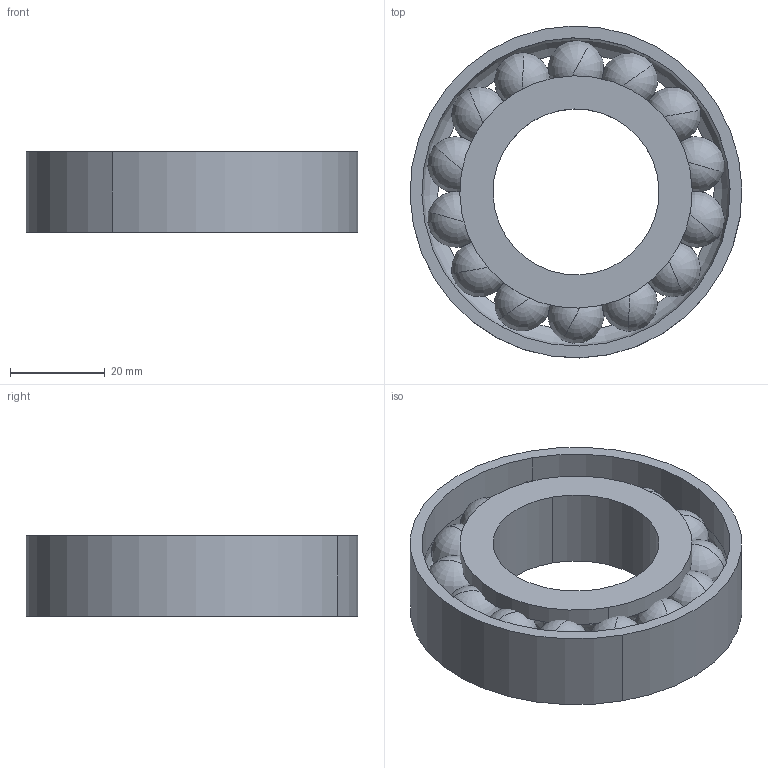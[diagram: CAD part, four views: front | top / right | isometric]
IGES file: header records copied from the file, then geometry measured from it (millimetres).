
Start section: START RECORD GO HERE.
Global section: file name: Bearing_AC_7207 BEP.igs; native system: IBM CATIA IGES - CATIA Version 5 Release 18 ; preprocessor: CATIA Version 5 Release 18 ; author: Barry; organization: win764bit; date: 20170723.073157; units: millimetre
Bounding box: 69.98 x 69.98 x 17 mm (x, y, z)
Surface area: 21476.2 mm2 (no closed solid volume)
Topology: 0 solids, 0 shells, 76 faces, 248 edges, 192 vertices
Faces by surface type: revolution 72, plane 4
